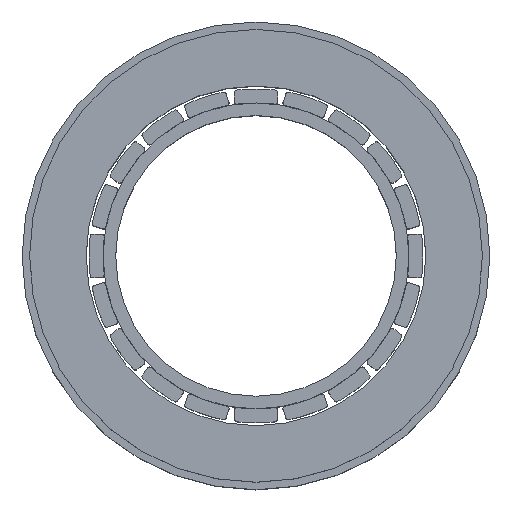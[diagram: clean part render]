
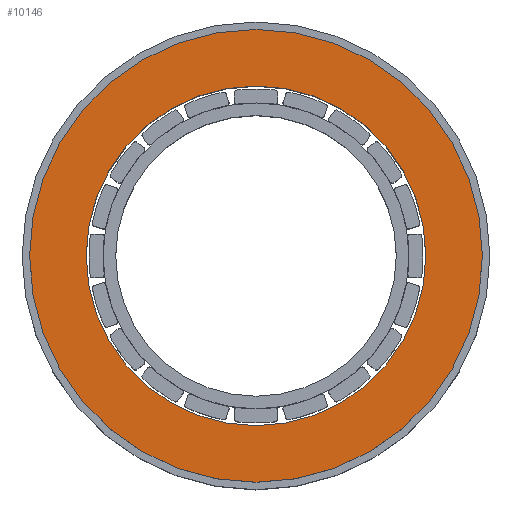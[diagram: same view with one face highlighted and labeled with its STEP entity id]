
A CAD part, top view. The second image highlights one B-rep face of the part: STEP entity #10146.
In plain terms, the highlighted planar face has unit normal (0, 0, 1).
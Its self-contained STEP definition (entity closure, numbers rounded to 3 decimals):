
#10119=CARTESIAN_POINT('',(0.,-6.484,17.3));
#10120=DIRECTION('',(0.,1.,0.));
#10121=DIRECTION('',(0.,0.,1.));
#10122=AXIS2_PLACEMENT_3D('',#10119,#10121,#10120);
#10123=PLANE('',#10122);
#10124=CARTESIAN_POINT('',(0.,24.2,17.3));
#10125=VERTEX_POINT('',#10124);
#10126=CARTESIAN_POINT('',(0.,0.,17.3));
#10127=DIRECTION('',(0.,1.,0.));
#10128=DIRECTION('',(0.,0.,1.));
#10129=AXIS2_PLACEMENT_3D('',#10126,#10128,#10127);
#10130=CIRCLE('',#10129,24.2);
#10131=EDGE_CURVE('',#10125,#10125,#10130,.T.);
#10132=ORIENTED_EDGE('',*,*,#10131,.T.);
#10133=EDGE_LOOP('',(#10132));
#10134=FACE_OUTER_BOUND('',#10133,.T.);
#10135=CARTESIAN_POINT('',(0.,18.15,17.3));
#10136=VERTEX_POINT('',#10135);
#10137=CARTESIAN_POINT('',(0.,0.,17.3));
#10138=DIRECTION('',(0.,1.,0.));
#10139=DIRECTION('',(0.,0.,-1.));
#10140=AXIS2_PLACEMENT_3D('',#10137,#10139,#10138);
#10141=CIRCLE('',#10140,18.15);
#10142=EDGE_CURVE('',#10136,#10136,#10141,.T.);
#10143=ORIENTED_EDGE('',*,*,#10142,.T.);
#10144=EDGE_LOOP('',(#10143));
#10145=FACE_BOUND('',#10144,.T.);
#10146=ADVANCED_FACE('',(#10134,#10145),#10123,.T.);
